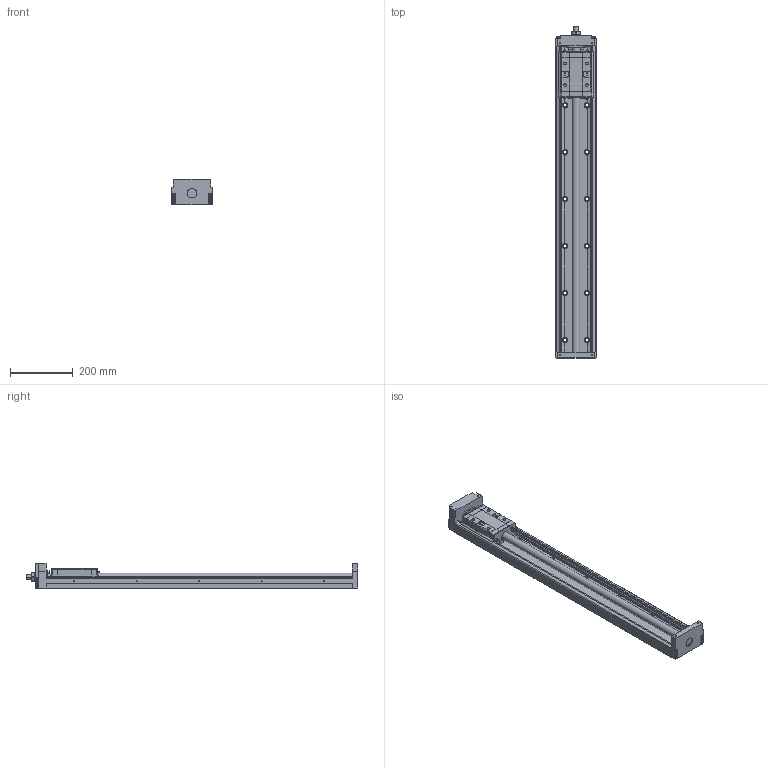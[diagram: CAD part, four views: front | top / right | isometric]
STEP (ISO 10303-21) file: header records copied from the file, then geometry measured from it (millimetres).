
FILE_DESCRIPTION(('no description'),'unknown implementation level');
FILE_NAME('KK13025P980A1H0000_FILE_55.stp',' ',('HIWIN GmbH'),('CADClick - KiM GmbH - www.kimweb.de'),'unknown preprocess','ACIS','unknown authorization');
FILE_SCHEMA(('automotive_design'));
Length unit declared in the file: millimetre
Products named in the file (2): KK130_FILE; KK13025P980A1H0000_FILE
Bounding box: 130 x 1062 x 83 mm (x, y, z)
Volume: 4166813 mm3; surface area: 592414.9 mm2
Topology: 2 solids, 13 shells, 746 faces, 1832 edges, 1187 vertices
Faces by surface type: plane 460, cylinder 244, torus 38, cone 2, sphere 2
Entity records: 43250 total; most frequent: DIRECTION 3954, CARTESIAN_POINT 3873, STYLED_ITEM 3765, PRESENTATION_STYLE_ASSIGNMENT 3765, COLOUR_RGB 3765, ORIENTED_EDGE 3660, EDGE_CURVE 1830, CURVE_STYLE 1830
